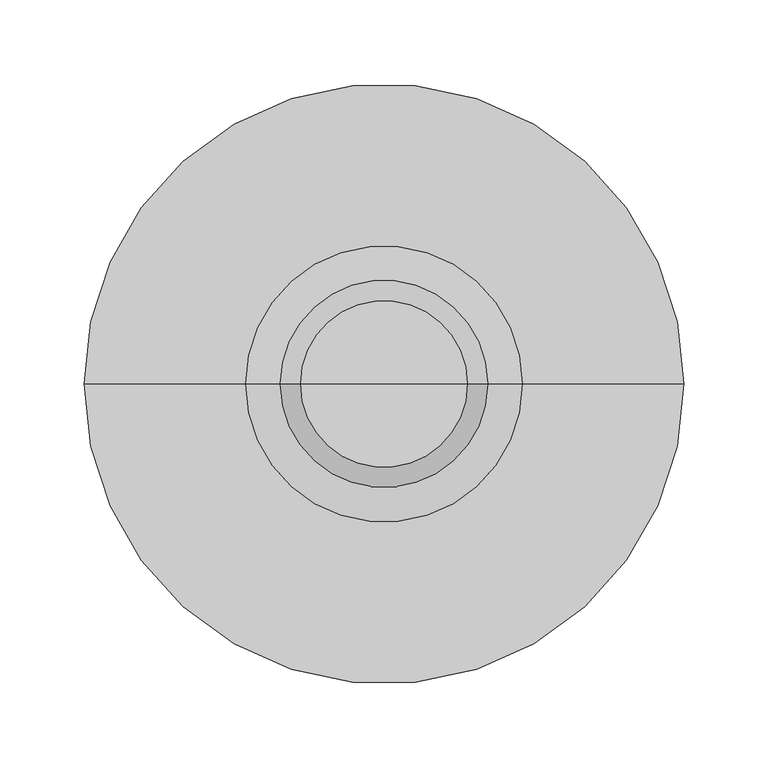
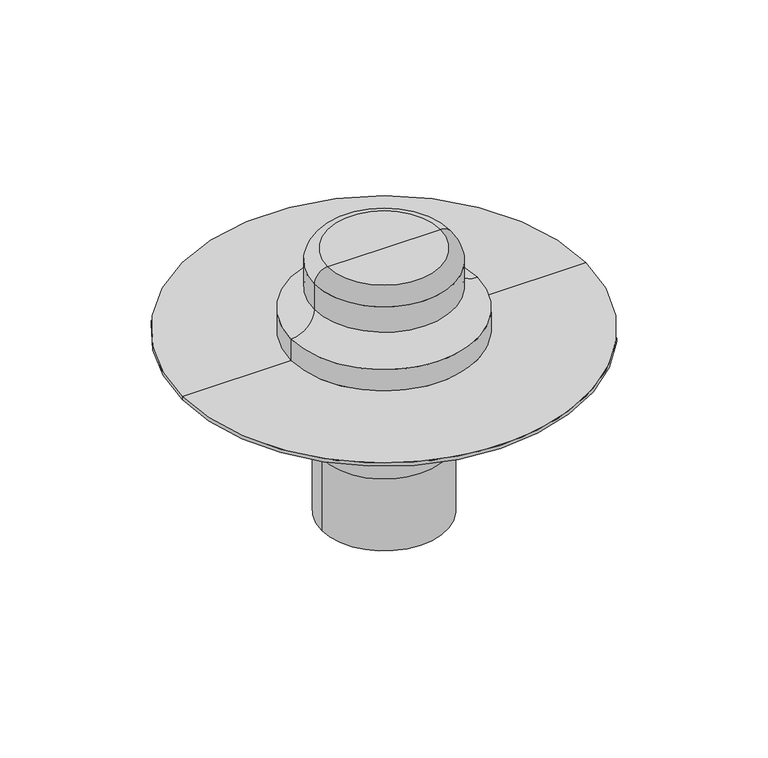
"""IFC4 building model written with IfcOpenShell, lengths in millimetres: flow terminal geometry, BIMLIB_Воронка_Кровельная_Fachmann_VM : 110х165."""

from ifc_helpers import new_model, si_unit, point, frame, origin, origin_with_axes, place, context, project, spatial, polyline, circle_curve, ellipse_curve, trimmed, source, transform, mapped, element, save
from ifc_brep_helpers import plane_surface, cylinder_surface, revolved_surface, advanced_brep


def flow_terminal_c421f7d6(model_context):
    return source(origin(), model_context, "Body", "AdvancedBrep", [
        advanced_brep(
        [(55.0, 0.0, -165.0), (-55.0, 0.0, -165.0), (-55.0, 0.0, -98.0), (55.0, 0.0, -98.0), (-113.0, 0.0, -9.0), (113.0, 0.0, -9.0), (113.0, 0.0, -32.0), (-113.0, 0.0, -32.0), (0.0, 0.0, 0.0), (138.0, 0.0, 0.0), (-138.0, 0.0, 0.0), (-90.0, 0.0, -32.0), (90.0, 0.0, -32.0), (90.0, 0.0, -40.0), (-90.0, 0.0, -40.0)],
        [
            (0, 1, circle_curve(frame((0.0, 0.0, -165.0), z_axis=(0.0, 0.0, -1.0), x_axis=(-1.0, 0.0, 0.0)), 55.0)),
            (1, 0, circle_curve(frame((0.0, 0.0, -165.0), z_axis=(0.0, 0.0, -1.0), x_axis=(-1.0, 0.0, 0.0)), 55.0)),
            (1, 2),
            (2, 3, circle_curve(frame((0.0, 0.0, -98.0), z_axis=(0.0, 0.0, -1.0), x_axis=(-1.0, 0.0, 0.0)), 55.0)),
            (3, 0),
            (3, 2, circle_curve(frame((0.0, 0.0, -98.0), z_axis=(0.0, 0.0, -1.0), x_axis=(-1.0, 0.0, 0.0)), 55.0)),
            (4, 5, circle_curve(frame((0.0, 0.0, -9.0), z_axis=(0.0, 0.0, -1.0), x_axis=(1.0, 0.0, 0.0)), 113.0)),
            (5, 6),
            (6, 7, circle_curve(frame((0.0, 0.0, -32.0), z_axis=(0.0, 0.0, 1.0), x_axis=(1.0, 0.0, 0.0)), 113.0)),
            (7, 4),
            (5, 4, circle_curve(frame((0.0, 0.0, -9.0), z_axis=(0.0, 0.0, -1.0), x_axis=(1.0, 0.0, 0.0)), 113.0)),
            (7, 6, circle_curve(frame((0.0, 0.0, -32.0), z_axis=(0.0, 0.0, 1.0), x_axis=(1.0, 0.0, 0.0)), 113.0)),
            (8, 9),
            (9, 10, circle_curve(origin_with_axes(), 138.0)),
            (10, 8),
            (10, 9, circle_curve(origin_with_axes(), 138.0)),
            (4, 10),
            (9, 5),
            (11, 12, circle_curve(frame((0.0, 0.0, -32.0), z_axis=(0.0, 0.0, -1.0), x_axis=(1.0, 0.0, 0.0)), 90.0)),
            (12, 13),
            (13, 14, circle_curve(frame((0.0, 0.0, -40.0), z_axis=(0.0, 0.0, 1.0), x_axis=(1.0, 0.0, 0.0)), 90.0)),
            (14, 11),
            (12, 11, circle_curve(frame((0.0, 0.0, -32.0), z_axis=(0.0, 0.0, -1.0), x_axis=(1.0, 0.0, 0.0)), 90.0)),
            (14, 13, circle_curve(frame((0.0, 0.0, -40.0), z_axis=(0.0, 0.0, 1.0), x_axis=(1.0, 0.0, 0.0)), 90.0)),
            (6, 12),
            (11, 7),
            (13, 3),
            (2, 14),
        ],
        [
            plane_surface(frame((-55.0, 0.0, -165.0), z_axis=(0.0, 0.0, -1.0), x_axis=(0.0, 1.0, 0.0))),
            cylinder_surface(frame((0.0, 0.0, -165.0), z_axis=(0.0, 0.0, 1.0), x_axis=(-1.0, 0.0, 0.0)), 55.0),
            cylinder_surface(frame((0.0, 0.0, 159.0), z_axis=(0.0, 0.0, 1.0), x_axis=(1.0, 0.0, 0.0)), 113.0),
            plane_surface(origin_with_axes()),
            revolved_surface(polyline([(113.0, 0.0, -9.0), (138.0, 0.0, 0.0)]), (0.0, 0.0, 159.0), (0.0, 0.0, 1.0)),
            cylinder_surface(frame((0.0, 0.0, 159.0), z_axis=(0.0, 0.0, 1.0), x_axis=(1.0, 0.0, 0.0)), 90.0),
            plane_surface(frame((0.0, 0.0, -32.0), z_axis=(0.0, 0.0, -1.0), x_axis=(1.0, 0.0, 0.0))),
            revolved_surface(polyline([(55.0, 0.0, -98.0), (90.0, 0.0, -40.0)]), (0.0, 0.0, 159.0), (0.0, 0.0, 1.0)),
        ],
        [
            (0, [[1, 2]]),
            (1, [[-2, 3, 4, 5]]),
            (1, [[-1, -5, 6, -3]]),
            (2, [[7, 8, 9, 10]]),
            (2, [[-8, 11, -10, 12]]),
            (3, [[13, 14, 15]]),
            (3, [[-13, -15, 16]]),
            (4, [[-7, 17, -14, 18]]),
            (4, [[-11, -18, -16, -17]]),
            (5, [[19, 20, 21, 22]]),
            (5, [[-20, 23, -22, 24]]),
            (6, [[-9, 25, -19, 26]]),
            (6, [[-12, -26, -23, -25]]),
            (7, [[-21, 27, -4, 28]]),
            (7, [[-24, -28, -6, -27]]),
        ],
    ),
        advanced_brep(
        [(0.0, 0.0, 79.0), (49.5, 0.0, 79.0), (-49.5, 0.0, 79.0), (-178.0, 0.0, 0.0), (178.0, 0.0, 0.0), (0.0, 0.0, 0.0), (-178.0, 0.0, 3.0), (178.0, 0.0, 3.0), (-82.0, 0.0, 3.0), (82.0, 0.0, 3.0), (-61.5, 0.0, 67.0), (61.5, 0.0, 67.0), (61.5, 0.0, 43.5), (-61.5, 0.0, 43.5), (-82.0, 0.0, 23.0), (82.0, 0.0, 23.0)],
        [
            (0, 1),
            (1, 2, circle_curve(frame((0.0, 0.0, 79.0), z_axis=(0.0, 0.0, 1.0), x_axis=(1.0, 0.0, 0.0)), 49.5)),
            (2, 0),
            (2, 1, circle_curve(frame((0.0, 0.0, 79.0), z_axis=(0.0, 0.0, 1.0), x_axis=(1.0, 0.0, 0.0)), 49.5)),
            (3, 4, circle_curve(frame((0.0, 0.0, 0.0), z_axis=(0.0, 0.0, -1.0), x_axis=(1.0, 0.0, 0.0)), 178.0)),
            (4, 5),
            (5, 3),
            (4, 3, circle_curve(frame((0.0, 0.0, 0.0), z_axis=(0.0, 0.0, -1.0), x_axis=(1.0, 0.0, 0.0)), 178.0)),
            (6, 7, circle_curve(frame((0.0, 0.0, 3.0), z_axis=(0.0, 0.0, -1.0), x_axis=(1.0, 0.0, 0.0)), 178.0)),
            (7, 4),
            (3, 6),
            (7, 6, circle_curve(frame((0.0, 0.0, 3.0), z_axis=(0.0, 0.0, -1.0), x_axis=(1.0, 0.0, 0.0)), 178.0)),
            (8, 9, circle_curve(frame((0.0, 0.0, 3.0), z_axis=(0.0, 0.0, -1.0), x_axis=(1.0, 0.0, 0.0)), 82.0)),
            (9, 7),
            (6, 8),
            (9, 8, circle_curve(frame((0.0, 0.0, 3.0), z_axis=(0.0, 0.0, -1.0), x_axis=(1.0, 0.0, 0.0)), 82.0)),
            (10, 11, circle_curve(frame((0.0, 0.0, 67.0), z_axis=(0.0, 0.0, -1.0), x_axis=(1.0, 0.0, 0.0)), 61.5)),
            (11, 12),
            (12, 13, circle_curve(frame((0.0, 0.0, 43.5), z_axis=(0.0, 0.0, 1.0), x_axis=(1.0, 0.0, 0.0)), 61.5)),
            (13, 10),
            (11, 10, circle_curve(frame((0.0, 0.0, 67.0), z_axis=(0.0, 0.0, -1.0), x_axis=(1.0, 0.0, 0.0)), 61.5)),
            (13, 12, circle_curve(frame((0.0, 0.0, 43.5), z_axis=(0.0, 0.0, 1.0), x_axis=(1.0, 0.0, 0.0)), 61.5)),
            (1, 11, circle_curve(frame((49.5, 0.0, 67.0), z_axis=(0.0, 1.0, 0.0), x_axis=(1.0, 0.0, 0.0)), 12.0)),
            (10, 2, circle_curve(frame((-49.5, 0.0, 67.0), z_axis=(0.0, 1.0, 0.0), x_axis=(-1.0, 0.0, 0.0)), 12.0)),
            (14, 15, circle_curve(frame((0.0, 0.0, 23.0), z_axis=(0.0, 0.0, -1.0), x_axis=(1.0, 0.0, 0.0)), 82.0)),
            (15, 9),
            (8, 14),
            (15, 14, circle_curve(frame((0.0, 0.0, 23.0), z_axis=(0.0, 0.0, -1.0), x_axis=(1.0, 0.0, 0.0)), 82.0)),
            (12, 15, circle_curve(frame((82.0, 0.0, 43.5), z_axis=(0.0, -1.0, 0.0), x_axis=(1.0, 0.0, 0.0)), 20.5)),
            (14, 13, circle_curve(frame((-82.0, 0.0, 43.5), z_axis=(0.0, -1.0, 0.0), x_axis=(-1.0, 0.0, 0.0)), 20.5)),
        ],
        [
            plane_surface(frame((0.0, 0.0, 79.0), z_axis=(0.0, 0.0, 1.0), x_axis=(1.0, 0.0, 0.0))),
            plane_surface(frame((0.0, 0.0, 0.0), z_axis=(0.0, 0.0, -1.0), x_axis=(1.0, 0.0, 0.0))),
            cylinder_surface(frame((0.0, 0.0, 229.0), z_axis=(0.0, 0.0, 1.0), x_axis=(1.0, 0.0, 0.0)), 178.0),
            plane_surface(frame((0.0, 0.0, 3.0), z_axis=(0.0, 0.0, 1.0), x_axis=(1.0, 0.0, 0.0))),
            cylinder_surface(frame((0.0, 0.0, 229.0), z_axis=(0.0, 0.0, 1.0), x_axis=(1.0, 0.0, 0.0)), 61.5),
            revolved_surface(trimmed(ellipse_curve(frame((49.5, 0.0, 67.0), z_axis=(0.0, -1.0, 0.0), x_axis=(1.0, 0.0, 0.0)), 12.0, 12.0), [point((61.5, 0.0, 67.0))], [point((49.5, 0.0, 79.0))], True, "CARTESIAN"), (0.0, 0.0, 229.0), (0.0, 0.0, 1.0)),
            cylinder_surface(frame((0.0, 0.0, 229.0), z_axis=(0.0, 0.0, 1.0), x_axis=(1.0, 0.0, 0.0)), 82.0),
            revolved_surface(trimmed(ellipse_curve(frame((82.0, 0.0, 43.5), z_axis=(0.0, 1.0, 0.0), x_axis=(1.0, 0.0, 0.0)), 20.5, 20.5), [point((82.0, 0.0, 23.0))], [point((61.5, 0.0, 43.5))], True, "CARTESIAN"), (0.0, 0.0, 229.0), (0.0, 0.0, 1.0)),
        ],
        [
            (0, [[1, 2, 3]]),
            (0, [[-3, 4, -1]]),
            (1, [[5, 6, 7]]),
            (1, [[8, -7, -6]]),
            (2, [[9, 10, -5, 11]]),
            (2, [[12, -11, -8, -10]]),
            (3, [[13, 14, -9, 15]]),
            (3, [[16, -15, -12, -14]]),
            (4, [[17, 18, 19, 20]]),
            (4, [[21, -20, 22, -18]]),
            (5, [[-2, 23, -17, 24]]),
            (5, [[-4, -24, -21, -23]]),
            (6, [[25, 26, -13, 27]]),
            (6, [[28, -27, -16, -26]]),
            (7, [[-19, 29, -25, 30]]),
            (7, [[-22, -30, -28, -29]]),
        ],
    ),
    ])


if __name__ == "__main__":
    model = new_model("IFC4")
    model_context = context("Model", 3, world=origin())
    ifc_project = project(units=[si_unit("LENGTHUNIT", "METRE", prefix="MILLI")], contexts=[model_context])
    site = spatial("IfcSite", under=ifc_project)
    building = spatial("IfcBuilding", under=site)
    placement = place(None, origin())
    flow_terminal_shape = flow_terminal_c421f7d6(model_context)
    element("IfcFlowTerminal", 1, ObjectType="BIMLIB_Воронка_Кровельная_Fachmann_VM : 110х165", at=placement, inside=building, context=model_context, shape_type="MappedRepresentation", body=[
        mapped(flow_terminal_shape, transform((0.0, 0.0, 0.0), x_axis=(1.0, 0.0, 0.0), y_axis=(0.0, 1.0, 0.0), z_axis=(0.0, 0.0, 1.0))),
    ])
    save(model, "model.ifc")
